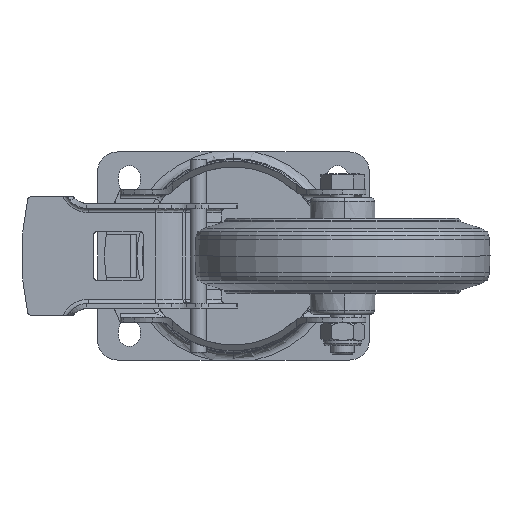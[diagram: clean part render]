
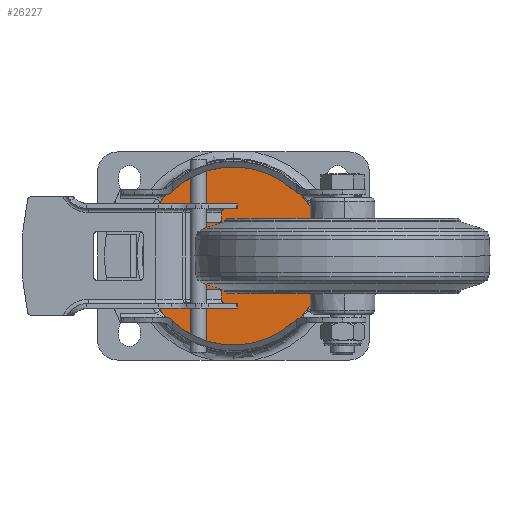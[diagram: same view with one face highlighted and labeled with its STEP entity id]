
A CAD part, front view. The second image highlights one B-rep face of the part: STEP entity #26227.
In plain terms, the highlighted planar face has unit normal (0, -1, 0).
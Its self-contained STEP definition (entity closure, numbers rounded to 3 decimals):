
#1403 = EDGE_CURVE ( 'NONE', #51656, #17600, #22318, .T. ) ;
#2564 = CARTESIAN_POINT ( 'NONE',  ( 0., -8.6, 0. ) ) ;
#3473 = CARTESIAN_POINT ( 'NONE',  ( -31.426, -8.6, 32.14 ) ) ;
#3718 = CARTESIAN_POINT ( 'NONE',  ( -34.223, -8.6, 35. ) ) ;
#3968 = CIRCLE ( 'NONE', #58011, 45.962 ) ;
#4130 = DIRECTION ( 'NONE',  ( 0., 0., 1. ) ) ;
#4451 = DIRECTION ( 'NONE',  ( 0., 1., 0. ) ) ;
#7336 = DIRECTION ( 'NONE',  ( 1., 0., 0. ) ) ;
#7377 = CIRCLE ( 'NONE', #17796, 4. ) ;
#7703 = ORIENTED_EDGE ( 'NONE', *, *, #38787, .T. ) ;
#8670 = CARTESIAN_POINT ( 'NONE',  ( 0., -8.6, 0. ) ) ;
#9262 = VERTEX_POINT ( 'NONE', #3473 ) ;
#9762 = DIRECTION ( 'NONE',  ( 0., 1., 0. ) ) ;
#9979 = DIRECTION ( 'NONE',  ( 0., -1., 0. ) ) ;
#11242 = AXIS2_PLACEMENT_3D ( 'NONE', #58302, #37472, #57349 ) ;
#11568 = CIRCLE ( 'NONE', #28202, 10.5 ) ;
#11719 = DIRECTION ( 'NONE',  ( 1., 0., 0. ) ) ;
#13286 = DIRECTION ( 'NONE',  ( 0., -1., 0. ) ) ;
#14003 = EDGE_CURVE ( 'NONE', #9262, #28351, #16553, .T. ) ;
#14944 = CARTESIAN_POINT ( 'NONE',  ( 30.651, -8.6, -32.88 ) ) ;
#15665 = CARTESIAN_POINT ( 'NONE',  ( 35.425, -8.6, -38. ) ) ;
#16009 = VERTEX_POINT ( 'NONE', #42268 ) ;
#16553 = CIRCLE ( 'NONE', #52929, 44.951 ) ;
#16566 = ORIENTED_EDGE ( 'NONE', *, *, #37732, .T. ) ;
#17600 = VERTEX_POINT ( 'NONE', #41570 ) ;
#17796 = AXIS2_PLACEMENT_3D ( 'NONE', #3718, #23563, #7336 ) ;
#18840 = VERTEX_POINT ( 'NONE', #21302 ) ;
#19986 = EDGE_LOOP ( 'NONE', ( #44467, #16566, #25838, #54215, #56285, #29043, #62713, #28619, #26454 ) ) ;
#20802 = AXIS2_PLACEMENT_3D ( 'NONE', #25498, #45380, #26461 ) ;
#21302 = CARTESIAN_POINT ( 'NONE',  ( 0., -8.6, 10.5 ) ) ;
#21343 = EDGE_CURVE ( 'NONE', #45185, #17600, #3968, .T. ) ;
#21473 = EDGE_CURVE ( 'NONE', #27121, #51656, #30992, .T. ) ;
#22318 = CIRCLE ( 'NONE', #35838, 4. ) ;
#22488 = DIRECTION ( 'NONE',  ( 1., 0., 0. ) ) ;
#23102 = DIRECTION ( 'NONE',  ( 0., -1., 0. ) ) ;
#23563 = DIRECTION ( 'NONE',  ( 0., -1., 0. ) ) ;
#25307 = EDGE_CURVE ( 'NONE', #33456, #29305, #30141, .T. ) ;
#25498 = CARTESIAN_POINT ( 'NONE',  ( 0., -8.6, 0. ) ) ;
#25838 = ORIENTED_EDGE ( 'NONE', *, *, #25307, .T. ) ;
#26227 = ADVANCED_FACE ( 'NONE', ( #60691, #50273 ), #36239, .T. ) ;
#26454 = ORIENTED_EDGE ( 'NONE', *, *, #21473, .F. ) ;
#26461 = DIRECTION ( 'NONE',  ( 0., 0., -1. ) ) ;
#26873 = CARTESIAN_POINT ( 'NONE',  ( 0., -8.6, -10.5 ) ) ;
#26936 = CARTESIAN_POINT ( 'NONE',  ( -31.426, -8.6, -32.14 ) ) ;
#27121 = VERTEX_POINT ( 'NONE', #14944 ) ;
#27663 = EDGE_CURVE ( 'NONE', #45185, #9262, #7377, .T. ) ;
#28202 = AXIS2_PLACEMENT_3D ( 'NONE', #39661, #44226, #39335 ) ;
#28351 = VERTEX_POINT ( 'NONE', #54586 ) ;
#28614 = DIRECTION ( 'NONE',  ( 1., 0., 0. ) ) ;
#28619 = ORIENTED_EDGE ( 'NONE', *, *, #1403, .F. ) ;
#29043 = ORIENTED_EDGE ( 'NONE', *, *, #27663, .F. ) ;
#29305 = VERTEX_POINT ( 'NONE', #61544 ) ;
#30141 = CIRCLE ( 'NONE', #48833, 45.962 ) ;
#30174 = CARTESIAN_POINT ( 'NONE',  ( -34.223, -8.6, -35. ) ) ;
#30992 = CIRCLE ( 'NONE', #44543, 44.951 ) ;
#33456 = VERTEX_POINT ( 'NONE', #47582 ) ;
#35831 = ORIENTED_EDGE ( 'NONE', *, *, #48643, .T. ) ;
#35838 = AXIS2_PLACEMENT_3D ( 'NONE', #30174, #9979, #44853 ) ;
#36239 = PLANE ( 'NONE',  #20802 ) ;
#36493 = AXIS2_PLACEMENT_3D ( 'NONE', #2564, #13286, #46872 ) ;
#37472 = DIRECTION ( 'NONE',  ( 0., -1., 0. ) ) ;
#37732 = EDGE_CURVE ( 'NONE', #16009, #33456, #40671, .T. ) ;
#38787 = EDGE_CURVE ( 'NONE', #57672, #18840, #11568, .T. ) ;
#39335 = DIRECTION ( 'NONE',  ( 0., 0., 1. ) ) ;
#39661 = CARTESIAN_POINT ( 'NONE',  ( 0., -8.6, 0. ) ) ;
#40671 = CIRCLE ( 'NONE', #36493, 45.962 ) ;
#41570 = CARTESIAN_POINT ( 'NONE',  ( -33.923, -8.6, -31.011 ) ) ;
#42268 = CARTESIAN_POINT ( 'NONE',  ( 33.746, -8.6, -31.204 ) ) ;
#44226 = DIRECTION ( 'NONE',  ( 0., 1., 0. ) ) ;
#44352 = CIRCLE ( 'NONE', #52656, 7. ) ;
#44467 = ORIENTED_EDGE ( 'NONE', *, *, #54151, .F. ) ;
#44543 = AXIS2_PLACEMENT_3D ( 'NONE', #58638, #9762, #53416 ) ;
#44853 = DIRECTION ( 'NONE',  ( 1., 0., 0. ) ) ;
#45185 = VERTEX_POINT ( 'NONE', #57114 ) ;
#45380 = DIRECTION ( 'NONE',  ( 0., -1., 0. ) ) ;
#45568 = CIRCLE ( 'NONE', #11242, 7. ) ;
#45582 = EDGE_LOOP ( 'NONE', ( #35831, #7703 ) ) ;
#46576 = CARTESIAN_POINT ( 'NONE',  ( 0., -8.6, 0. ) ) ;
#46872 = DIRECTION ( 'NONE',  ( 1., 0., 0. ) ) ;
#47582 = CARTESIAN_POINT ( 'NONE',  ( 45.962, -8.6, 0. ) ) ;
#48363 = DIRECTION ( 'NONE',  ( 1., 0., 0. ) ) ;
#48643 = EDGE_CURVE ( 'NONE', #18840, #57672, #59039, .T. ) ;
#48833 = AXIS2_PLACEMENT_3D ( 'NONE', #46576, #23102, #28614 ) ;
#50273 = FACE_BOUND ( 'NONE', #45582, .T. ) ;
#51656 = VERTEX_POINT ( 'NONE', #26936 ) ;
#52656 = AXIS2_PLACEMENT_3D ( 'NONE', #15665, #55064, #11719 ) ;
#52929 = AXIS2_PLACEMENT_3D ( 'NONE', #58495, #57831, #48363 ) ;
#53416 = DIRECTION ( 'NONE',  ( 1., 0., 0. ) ) ;
#54151 = EDGE_CURVE ( 'NONE', #16009, #27121, #44352, .T. ) ;
#54215 = ORIENTED_EDGE ( 'NONE', *, *, #62068, .F. ) ;
#54586 = CARTESIAN_POINT ( 'NONE',  ( 30.651, -8.6, 32.88 ) ) ;
#55064 = DIRECTION ( 'NONE',  ( 0., -1., 0. ) ) ;
#56285 = ORIENTED_EDGE ( 'NONE', *, *, #14003, .F. ) ;
#57114 = CARTESIAN_POINT ( 'NONE',  ( -33.923, -8.6, 31.011 ) ) ;
#57349 = DIRECTION ( 'NONE',  ( 1., 0., 0. ) ) ;
#57361 = DIRECTION ( 'NONE',  ( 0., -1., 0. ) ) ;
#57672 = VERTEX_POINT ( 'NONE', #26873 ) ;
#57831 = DIRECTION ( 'NONE',  ( 0., 1., 0. ) ) ;
#58011 = AXIS2_PLACEMENT_3D ( 'NONE', #62885, #57361, #22488 ) ;
#58302 = CARTESIAN_POINT ( 'NONE',  ( 35.425, -8.6, 38. ) ) ;
#58495 = CARTESIAN_POINT ( 'NONE',  ( 0., -8.6, 0. ) ) ;
#58638 = CARTESIAN_POINT ( 'NONE',  ( 0., -8.6, 0. ) ) ;
#59039 = CIRCLE ( 'NONE', #62157, 10.5 ) ;
#60691 = FACE_OUTER_BOUND ( 'NONE', #19986, .T. ) ;
#61544 = CARTESIAN_POINT ( 'NONE',  ( 33.746, -8.6, 31.204 ) ) ;
#62068 = EDGE_CURVE ( 'NONE', #28351, #29305, #45568, .T. ) ;
#62157 = AXIS2_PLACEMENT_3D ( 'NONE', #8670, #4451, #4130 ) ;
#62713 = ORIENTED_EDGE ( 'NONE', *, *, #21343, .T. ) ;
#62885 = CARTESIAN_POINT ( 'NONE',  ( 0., -8.6, 0. ) ) ;
